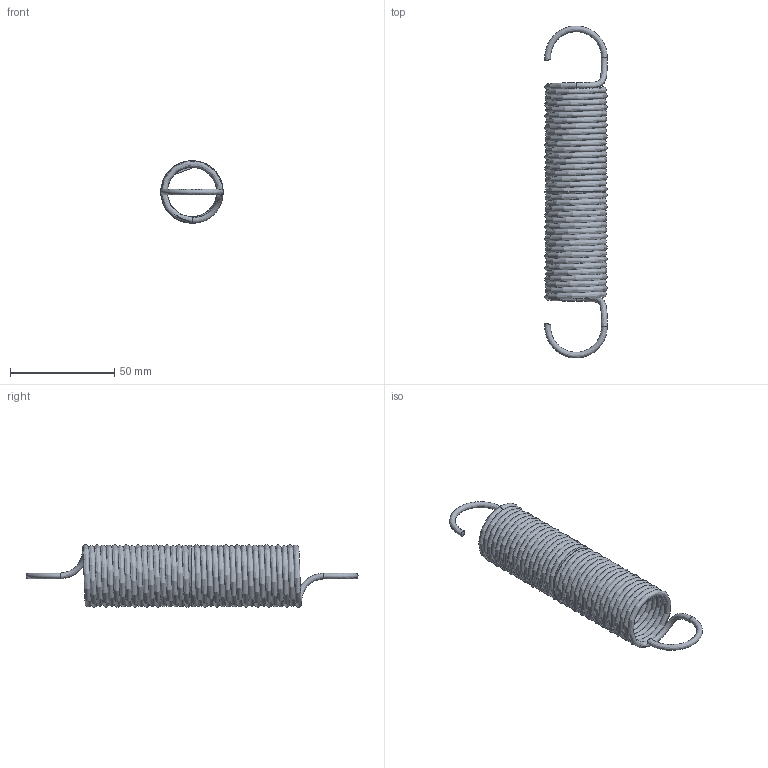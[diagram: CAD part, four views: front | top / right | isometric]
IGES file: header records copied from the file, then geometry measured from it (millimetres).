
Global section: file name: T22060; native system: Autodesk Inventor 2026; preprocessor: unknown; author: J. Iwanek; date: 20261005.102207; units: millimetre
Bounding box: 30 x 159.56 x 30 mm (x, y, z)
Volume: 20171.7 mm3; surface area: 28791.8 mm2
Topology: 1 solids, 1 shells, 10 faces, 36 edges, 24 vertices
Faces by surface type: bspline 10
